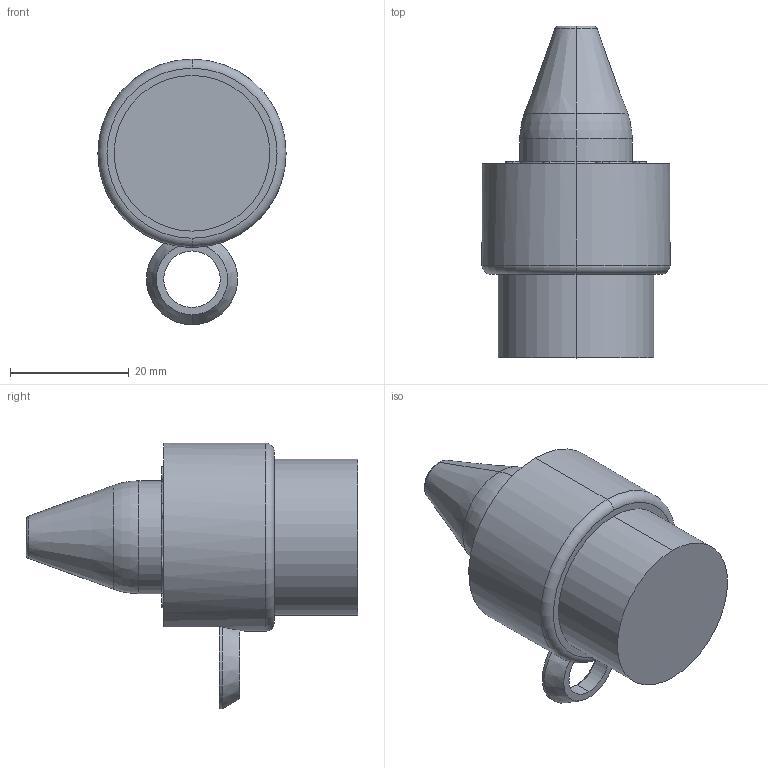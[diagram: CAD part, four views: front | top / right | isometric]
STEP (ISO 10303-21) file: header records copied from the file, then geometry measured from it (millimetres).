
FILE_DESCRIPTION (( 'STEP AP214' ), '1' );
FILE_NAME ('PA-.750-.150-P-F1.stp', '2020-05-01T17:56:12', ( '' ), ( '' ), 'SwSTEP 2.0', 'SolidWorks 2017', '' );
FILE_SCHEMA (( 'AUTOMOTIVE_DESIGN' ));
Length unit declared in the file: inch
Products named in the file (1): PA-.750-.150-P-F1
Bounding box: 31.75 x 56.01 x 44.83 mm (x, y, z)
Volume: 26682.6 mm3; surface area: 5826.7 mm2
Topology: 2 solids, 2 shells, 58 faces, 117 edges, 73 vertices
Faces by surface type: cylinder 27, plane 14, torus 9, cone 8
Entity records: 1624 total; most frequent: DIRECTION 309, CARTESIAN_POINT 287, ORIENTED_EDGE 234, AXIS2_PLACEMENT_3D 137, EDGE_CURVE 117, CIRCLE 78, VERTEX_POINT 73, EDGE_LOOP 70
